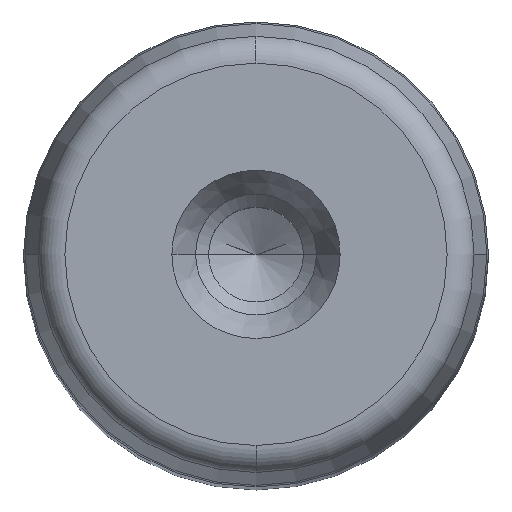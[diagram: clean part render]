
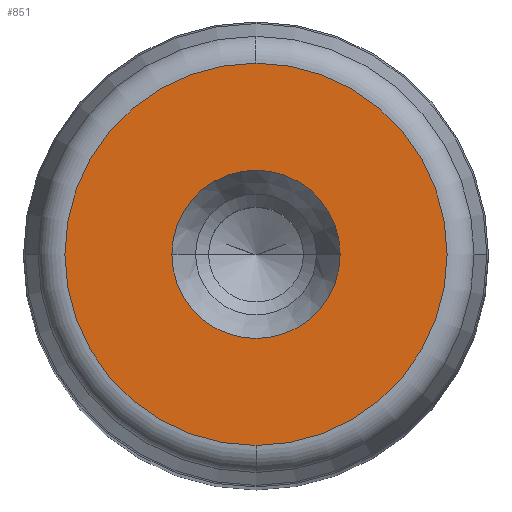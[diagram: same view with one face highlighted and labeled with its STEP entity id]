
A CAD part, top view. The second image highlights one B-rep face of the part: STEP entity #851.
In plain terms, the highlighted planar face has unit normal (0, 0, 1) as drawn and (0, 1, 0) by its records, which use the part's own axes.
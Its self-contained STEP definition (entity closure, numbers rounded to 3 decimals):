
#281=CARTESIAN_POINT('',(9.05,200.0,0.0));
#282=VERTEX_POINT('',#281);
#289=CARTESIAN_POINT('',(-9.05,200.0,0.));
#290=VERTEX_POINT('',#289);
#291=CARTESIAN_POINT('',(0.0,200.0,0.0));
#292=DIRECTION('',(0.0,1.0,0.0));
#293=DIRECTION('',(1.0,0.0,0.0));
#294=AXIS2_PLACEMENT_3D('',#291,#292,#293);
#295=CIRCLE('',#294,9.05);
#296=EDGE_CURVE('',#282,#290,#295,.T.);
#313=CARTESIAN_POINT('',(0.0,200.0,20.554));
#314=VERTEX_POINT('',#313);
#324=CARTESIAN_POINT('',(0.,200.0,-20.554));
#325=VERTEX_POINT('',#324);
#326=CARTESIAN_POINT('',(0.0,200.0,0.0));
#327=DIRECTION('',(0.0,1.0,0.0));
#328=DIRECTION('',(1.0,0.0,0.0));
#329=AXIS2_PLACEMENT_3D('',#326,#327,#328);
#330=CIRCLE('',#329,20.554);
#331=EDGE_CURVE('',#325,#314,#330,.T.);
#812=CARTESIAN_POINT('',(20.554,200.0,0.0));
#813=VERTEX_POINT('',#812);
#814=CARTESIAN_POINT('',(0.0,200.0,0.0));
#815=DIRECTION('',(0.0,1.0,0.0));
#816=DIRECTION('',(1.0,0.0,0.0));
#817=AXIS2_PLACEMENT_3D('',#814,#815,#816);
#818=CIRCLE('',#817,20.554);
#819=EDGE_CURVE('',#813,#325,#818,.T.);
#821=CARTESIAN_POINT('',(0.0,200.0,0.0));
#822=DIRECTION('',(0.0,1.0,0.0));
#823=DIRECTION('',(1.0,0.0,0.0));
#824=AXIS2_PLACEMENT_3D('',#821,#822,#823);
#825=CIRCLE('',#824,20.554);
#826=EDGE_CURVE('',#314,#813,#825,.T.);
#831=CARTESIAN_POINT('',(-22.61,200.0,-22.61));
#832=DIRECTION('',(0.0,1.0,0.0));
#833=DIRECTION('',(0.0,0.0,1.0));
#834=AXIS2_PLACEMENT_3D('',#831,#832,#833);
#835=PLANE('',#834);
#836=ORIENTED_EDGE('',*,*,#819,.T.);
#837=ORIENTED_EDGE('',*,*,#331,.T.);
#838=ORIENTED_EDGE('',*,*,#826,.T.);
#839=EDGE_LOOP('',(#836,#837,#838));
#840=FACE_OUTER_BOUND('',#839,.T.);
#841=ORIENTED_EDGE('',*,*,#296,.F.);
#842=CARTESIAN_POINT('',(0.0,200.0,0.0));
#843=DIRECTION('',(0.0,1.0,0.0));
#844=DIRECTION('',(1.0,0.0,0.0));
#845=AXIS2_PLACEMENT_3D('',#842,#843,#844);
#846=CIRCLE('',#845,9.05);
#847=EDGE_CURVE('',#290,#282,#846,.T.);
#848=ORIENTED_EDGE('',*,*,#847,.F.);
#849=EDGE_LOOP('',(#841,#848));
#850=FACE_BOUND('',#849,.T.);
#851=ADVANCED_FACE('',(#840,#850),#835,.T.);
